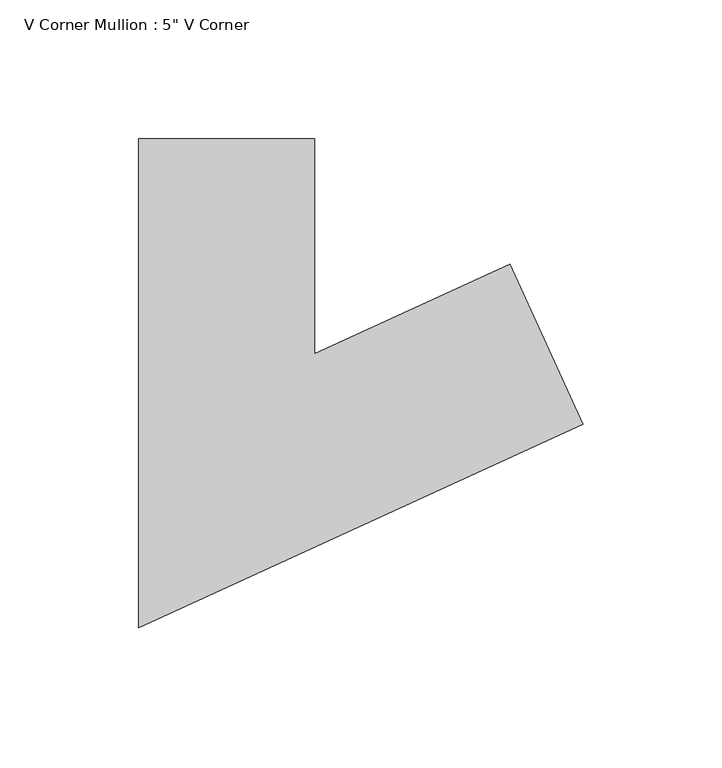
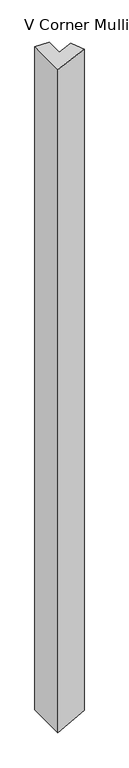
"""IFC4 building model written with IfcOpenShell, lengths in millimetres: member geometry."""

from ifc_helpers import new_model, si_unit, origin, place, context, project, spatial, faceted_brep, source, transform, mapped, element, save


def member_40020609(model_context):
    return source(origin(), model_context, "Body", "Brep", [
        faceted_brep([(61.49523, 18.2208415, -1.522887), (87.9205542, -39.5195451, -2.177292), (87.9205542, -39.5195451, -3111.3091907), (61.49523, 18.2208415, -3111.9453665), (-9.0228811, -14.0523047, 0.2234454), (-9.0228811, -14.0523047, -3113.6430528), (-9.0228811, 63.5, 0.2234454), (-9.0228811, 63.5, -3113.6430528), (-72.5228811, 63.5, 1.7959792), (-72.5228811, 63.5, -3115.1717819), (-72.5228811, -112.9476953, 1.7959792), (-72.5228811, -112.9476953, -3115.1717819)], [[[0, 1, 2, 3]], [[4, 0, 3, 5]], [[6, 4, 5, 7]], [[8, 6, 7, 9]], [[10, 8, 9, 11]], [[1, 10, 11, 2]], [[1, 0, 4, 6, 8, 10]], [[2, 11, 9, 7, 5, 3]]]),
    ])


if __name__ == "__main__":
    model = new_model("IFC4")
    model_context = context("Model", 3, world=origin())
    ifc_project = project(units=[si_unit("LENGTHUNIT", "METRE", prefix="MILLI")], contexts=[model_context])
    site = spatial("IfcSite", under=ifc_project)
    building = spatial("IfcBuilding", under=site)
    placement = place(None, origin())
    member_shape = member_40020609(model_context)
    element("IfcMember", 1, ObjectType="V Corner Mullion : 5\" V Corner", at=placement, inside=building, context=model_context, shape_type="MappedRepresentation", body=[
        mapped(member_shape, transform((0.0, 0.0, 0.0), x_axis=(1.0, 0.0, 0.0), y_axis=(0.0, 1.0, 0.0), z_axis=(0.0, 0.0, 1.0))),
    ])
    save(model, "model.ifc")
